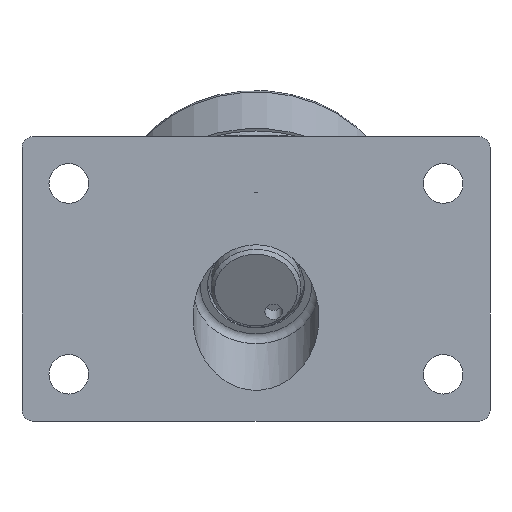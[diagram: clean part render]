
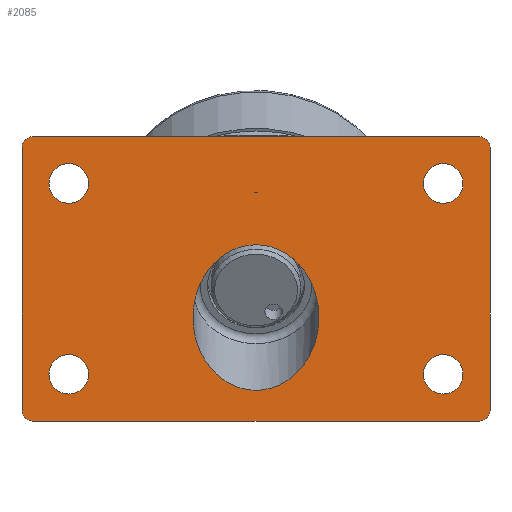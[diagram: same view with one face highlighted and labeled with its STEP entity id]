
A CAD part, front view. The second image highlights one B-rep face of the part: STEP entity #2085.
In plain terms, the highlighted planar face has unit normal (0, -1, 0) as drawn and (0, 0, -1) by its records, which use the part's own axes.
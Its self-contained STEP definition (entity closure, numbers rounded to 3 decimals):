
#51=ELLIPSE('',#2399,20.207,17.5);
#161=LINE('',#4000,#242);
#164=LINE('',#4008,#245);
#167=LINE('',#4016,#248);
#169=LINE('',#4022,#250);
#242=VECTOR('',#2888,73.);
#245=VECTOR('',#2897,124.);
#248=VECTOR('',#2906,73.);
#250=VECTOR('',#2914,124.);
#346=FACE_BOUND('',#642,.T.);
#347=FACE_BOUND('',#643,.T.);
#348=FACE_BOUND('',#644,.T.);
#349=FACE_BOUND('',#645,.T.);
#350=FACE_BOUND('',#646,.T.);
#382=PLANE('',#2402);
#487=FACE_OUTER_BOUND('',#641,.T.);
#641=EDGE_LOOP('',(#1687,#1688,#1689,#1690,#1691,#1692,#1693,#1694));
#642=EDGE_LOOP('',(#1695));
#643=EDGE_LOOP('',(#1696));
#644=EDGE_LOOP('',(#1697));
#645=EDGE_LOOP('',(#1698));
#646=EDGE_LOOP('',(#1699));
#801=CIRCLE('',#2378,3.);
#802=CIRCLE('',#2381,3.);
#803=CIRCLE('',#2384,3.);
#804=CIRCLE('',#2387,3.);
#811=CIRCLE('',#2403,5.5);
#812=CIRCLE('',#2404,5.5);
#813=CIRCLE('',#2405,5.5);
#814=CIRCLE('',#2406,5.5);
#962=VERTEX_POINT('',#3992);
#963=VERTEX_POINT('',#3994);
#964=VERTEX_POINT('',#3998);
#965=VERTEX_POINT('',#4002);
#966=VERTEX_POINT('',#4006);
#967=VERTEX_POINT('',#4010);
#968=VERTEX_POINT('',#4014);
#969=VERTEX_POINT('',#4018);
#974=VERTEX_POINT('',#4037);
#976=VERTEX_POINT('',#4046);
#977=VERTEX_POINT('',#4048);
#978=VERTEX_POINT('',#4050);
#979=VERTEX_POINT('',#4052);
#1202=EDGE_CURVE('',#962,#963,#801,.T.);
#1205=EDGE_CURVE('',#962,#964,#161,.T.);
#1207=EDGE_CURVE('',#965,#964,#802,.T.);
#1209=EDGE_CURVE('',#965,#966,#164,.T.);
#1211=EDGE_CURVE('',#967,#966,#803,.T.);
#1213=EDGE_CURVE('',#967,#968,#167,.T.);
#1215=EDGE_CURVE('',#969,#968,#804,.T.);
#1216=EDGE_CURVE('',#969,#963,#169,.T.);
#1223=EDGE_CURVE('',#974,#974,#51,.T.);
#1227=EDGE_CURVE('',#976,#976,#811,.T.);
#1228=EDGE_CURVE('',#977,#977,#812,.T.);
#1229=EDGE_CURVE('',#978,#978,#813,.T.);
#1230=EDGE_CURVE('',#979,#979,#814,.T.);
#1687=ORIENTED_EDGE('',*,*,#1211,.F.);
#1688=ORIENTED_EDGE('',*,*,#1213,.T.);
#1689=ORIENTED_EDGE('',*,*,#1215,.F.);
#1690=ORIENTED_EDGE('',*,*,#1216,.T.);
#1691=ORIENTED_EDGE('',*,*,#1202,.F.);
#1692=ORIENTED_EDGE('',*,*,#1205,.T.);
#1693=ORIENTED_EDGE('',*,*,#1207,.F.);
#1694=ORIENTED_EDGE('',*,*,#1209,.T.);
#1695=ORIENTED_EDGE('',*,*,#1223,.T.);
#1696=ORIENTED_EDGE('',*,*,#1227,.T.);
#1697=ORIENTED_EDGE('',*,*,#1228,.T.);
#1698=ORIENTED_EDGE('',*,*,#1229,.T.);
#1699=ORIENTED_EDGE('',*,*,#1230,.T.);
#2085=ADVANCED_FACE('',(#487,#346,#347,#348,#349,#350),#382,.F.);
#2378=AXIS2_PLACEMENT_3D('',#3995,#2882,#2883);
#2381=AXIS2_PLACEMENT_3D('',#4004,#2892,#2893);
#2384=AXIS2_PLACEMENT_3D('',#4012,#2901,#2902);
#2387=AXIS2_PLACEMENT_3D('',#4020,#2910,#2911);
#2399=AXIS2_PLACEMENT_3D('',#4038,#2935,#2936);
#2402=AXIS2_PLACEMENT_3D('',#4045,#2944,#2945);
#2403=AXIS2_PLACEMENT_3D('',#4047,#2946,#2947);
#2404=AXIS2_PLACEMENT_3D('',#4049,#2948,#2949);
#2405=AXIS2_PLACEMENT_3D('',#4051,#2950,#2951);
#2406=AXIS2_PLACEMENT_3D('',#4053,#2952,#2953);
#2882=DIRECTION('center_axis',(0.,0.,1.));
#2883=DIRECTION('ref_axis',(-0.707,-0.707,0.));
#2888=DIRECTION('',(0.,1.,0.));
#2892=DIRECTION('center_axis',(0.,0.,1.));
#2893=DIRECTION('ref_axis',(-0.707,0.707,0.));
#2897=DIRECTION('',(1.,0.,0.));
#2901=DIRECTION('center_axis',(0.,0.,1.));
#2902=DIRECTION('ref_axis',(0.707,0.707,0.));
#2906=DIRECTION('',(0.,-1.,0.));
#2910=DIRECTION('center_axis',(0.,0.,1.));
#2911=DIRECTION('ref_axis',(0.707,-0.707,0.));
#2914=DIRECTION('',(-1.,0.,0.));
#2935=DIRECTION('center_axis',(0.,0.,1.));
#2936=DIRECTION('ref_axis',(0.,1.,0.));
#2944=DIRECTION('center_axis',(0.,0.,1.));
#2945=DIRECTION('ref_axis',(0.,-1.,0.));
#2946=DIRECTION('center_axis',(0.,0.,1.));
#2947=DIRECTION('ref_axis',(1.,0.,0.));
#2948=DIRECTION('center_axis',(0.,0.,1.));
#2949=DIRECTION('ref_axis',(1.,0.,0.));
#2950=DIRECTION('center_axis',(0.,0.,1.));
#2951=DIRECTION('ref_axis',(1.,0.,0.));
#2952=DIRECTION('center_axis',(0.,0.,1.));
#2953=DIRECTION('ref_axis',(1.,0.,0.));
#3992=CARTESIAN_POINT('',(-65.,-25.55,0.));
#3994=CARTESIAN_POINT('',(-62.,-28.55,0.));
#3995=CARTESIAN_POINT('Origin',(-62.,-25.55,0.));
#3998=CARTESIAN_POINT('',(-65.,47.45,0.));
#4000=CARTESIAN_POINT('',(-65.,-28.55,0.));
#4002=CARTESIAN_POINT('',(-62.,50.45,0.));
#4004=CARTESIAN_POINT('Origin',(-62.,47.45,0.));
#4006=CARTESIAN_POINT('',(62.,50.45,0.));
#4008=CARTESIAN_POINT('',(-65.,50.45,0.));
#4010=CARTESIAN_POINT('',(65.,47.45,0.));
#4012=CARTESIAN_POINT('Origin',(62.,47.45,0.));
#4014=CARTESIAN_POINT('',(65.,-25.55,0.));
#4016=CARTESIAN_POINT('',(65.,50.45,0.));
#4018=CARTESIAN_POINT('',(62.,-28.55,0.));
#4020=CARTESIAN_POINT('Origin',(62.,-25.55,0.));
#4022=CARTESIAN_POINT('',(65.,-28.55,0.));
#4037=CARTESIAN_POINT('',(17.5,21.68,0.));
#4038=CARTESIAN_POINT('Origin',(0.,21.68,
0.));
#4045=CARTESIAN_POINT('Origin',(0.,10.95,0.));
#4046=CARTESIAN_POINT('',(46.5,-15.55,0.));
#4047=CARTESIAN_POINT('Origin',(52.,-15.55,0.));
#4048=CARTESIAN_POINT('',(-57.5,37.45,0.));
#4049=CARTESIAN_POINT('Origin',(-52.,37.45,0.));
#4050=CARTESIAN_POINT('',(46.5,37.45,0.));
#4051=CARTESIAN_POINT('Origin',(52.,37.45,0.));
#4052=CARTESIAN_POINT('',(-57.5,-15.55,0.));
#4053=CARTESIAN_POINT('Origin',(-52.,-15.55,0.));
